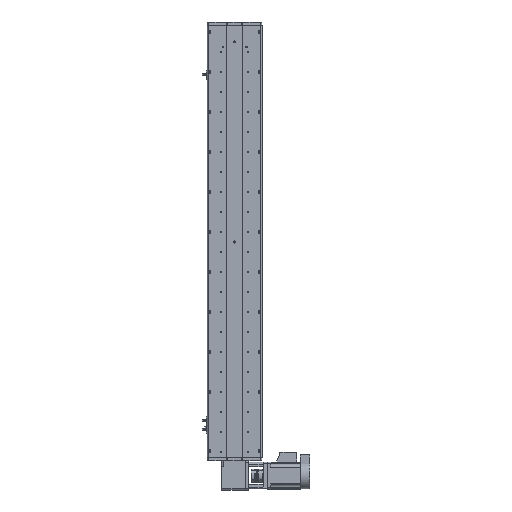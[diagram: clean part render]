
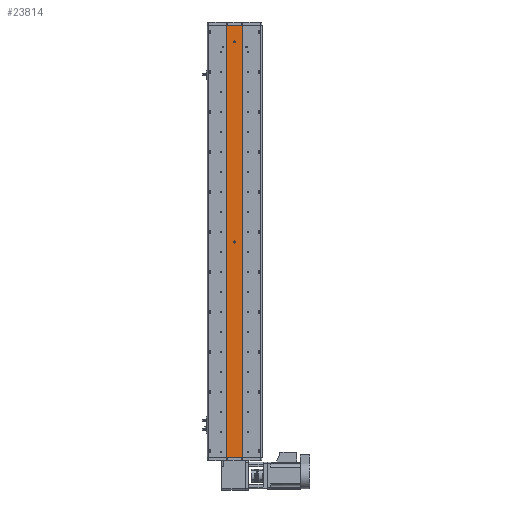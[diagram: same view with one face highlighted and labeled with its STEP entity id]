
A CAD part, front view. The second image highlights one B-rep face of the part: STEP entity #23814.
In plain terms, the highlighted planar face has unit normal (0, -1, 0).
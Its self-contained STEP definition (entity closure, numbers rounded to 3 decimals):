
#1544 = CARTESIAN_POINT ( 'NONE',  ( 0., 1., -1.5 ) ) ;
#1780 = CARTESIAN_POINT ( 'NONE',  ( 25., 1., 648.5 ) ) ;
#4440 = EDGE_LOOP ( 'NONE', ( #4460, #8074 ) ) ;
#4460 = ORIENTED_EDGE ( 'NONE', *, *, #12878, .F. ) ;
#5410 = DIRECTION ( 'NONE',  ( 0., 0., -1. ) ) ;
#5710 = VECTOR ( 'NONE', #9078, 1000. ) ;
#5819 = LINE ( 'NONE', #41310, #25114 ) ;
#6642 = AXIS2_PLACEMENT_3D ( 'NONE', #1544, #28504, #5410 ) ;
#7174 = VERTEX_POINT ( 'NONE', #49098 ) ;
#7587 = CARTESIAN_POINT ( 'NONE',  ( 25., 1., -648.5 ) ) ;
#8074 = ORIENTED_EDGE ( 'NONE', *, *, #24435, .F. ) ;
#8123 = ORIENTED_EDGE ( 'NONE', *, *, #10801, .F. ) ;
#8352 = LINE ( 'NONE', #32844, #46885 ) ;
#9018 = EDGE_LOOP ( 'NONE', ( #20781, #26809 ) ) ;
#9078 = DIRECTION ( 'NONE',  ( 1., 0., 0. ) ) ;
#9729 = PLANE ( 'NONE',  #45631 ) ;
#10801 = EDGE_CURVE ( 'NONE', #39990, #49538, #5819, .T. ) ;
#12670 = EDGE_CURVE ( 'NONE', #17230, #43362, #21278, .T. ) ;
#12878 = EDGE_CURVE ( 'NONE', #43347, #21437, #41079, .T. ) ;
#13502 = CARTESIAN_POINT ( 'NONE',  ( 0., 1., 598.5 ) ) ;
#13661 = DIRECTION ( 'NONE',  ( 0., 0., 1. ) ) ;
#13693 = CARTESIAN_POINT ( 'NONE',  ( 25., 1., 648.5 ) ) ;
#14384 = LINE ( 'NONE', #41663, #38407 ) ;
#14813 = CARTESIAN_POINT ( 'NONE',  ( -25., 1., -648.5 ) ) ;
#15960 = EDGE_CURVE ( 'NONE', #44135, #49538, #46642, .T. ) ;
#16575 = CARTESIAN_POINT ( 'NONE',  ( 0., 1., 598.5 ) ) ;
#17230 = VERTEX_POINT ( 'NONE', #18183 ) ;
#17379 = DIRECTION ( 'NONE',  ( 0., 0., -1. ) ) ;
#18183 = CARTESIAN_POINT ( 'NONE',  ( 0., 1., 595.5 ) ) ;
#18679 = CARTESIAN_POINT ( 'NONE',  ( 0., 1., -1.5 ) ) ;
#18808 = EDGE_LOOP ( 'NONE', ( #22608, #8123, #42455, #25656 ) ) ;
#20156 = FACE_BOUND ( 'NONE', #9018, .T. ) ;
#20385 = DIRECTION ( 'NONE',  ( 0., 0., -1. ) ) ;
#20721 = CARTESIAN_POINT ( 'NONE',  ( 0., 1., 601.5 ) ) ;
#20781 = ORIENTED_EDGE ( 'NONE', *, *, #12670, .F. ) ;
#21278 = CIRCLE ( 'NONE', #22593, 3. ) ;
#21437 = VERTEX_POINT ( 'NONE', #42716 ) ;
#22171 = DIRECTION ( 'NONE',  ( 0., 0., -1. ) ) ;
#22517 = DIRECTION ( 'NONE',  ( 0., 0., -1. ) ) ;
#22519 = DIRECTION ( 'NONE',  ( 0., 0., -1. ) ) ;
#22593 = AXIS2_PLACEMENT_3D ( 'NONE', #13502, #40316, #17379 ) ;
#22608 = ORIENTED_EDGE ( 'NONE', *, *, #15960, .T. ) ;
#22997 = AXIS2_PLACEMENT_3D ( 'NONE', #16575, #43378, #20385 ) ;
#23814 = ADVANCED_FACE ( 'NONE', ( #29170, #20156, #39378 ), #9729, .F. ) ;
#24435 = EDGE_CURVE ( 'NONE', #21437, #43347, #41111, .T. ) ;
#25114 = VECTOR ( 'NONE', #22171, 1000. ) ;
#25656 = ORIENTED_EDGE ( 'NONE', *, *, #33615, .T. ) ;
#26809 = ORIENTED_EDGE ( 'NONE', *, *, #43296, .F. ) ;
#28504 = DIRECTION ( 'NONE',  ( 0., -1., 0. ) ) ;
#29170 = FACE_BOUND ( 'NONE', #4440, .T. ) ;
#29361 = AXIS2_PLACEMENT_3D ( 'NONE', #18679, #45511, #22519 ) ;
#32844 = CARTESIAN_POINT ( 'NONE',  ( 25., 1., 648.5 ) ) ;
#33615 = EDGE_CURVE ( 'NONE', #7174, #44135, #14384, .T. ) ;
#36639 = DIRECTION ( 'NONE',  ( 0., 1., 0. ) ) ;
#38407 = VECTOR ( 'NONE', #22517, 1000. ) ;
#39378 = FACE_OUTER_BOUND ( 'NONE', #18808, .T. ) ;
#39862 = CARTESIAN_POINT ( 'NONE',  ( 25., 1., -648.5 ) ) ;
#39990 = VERTEX_POINT ( 'NONE', #13693 ) ;
#40316 = DIRECTION ( 'NONE',  ( 0., -1., 0. ) ) ;
#40541 = DIRECTION ( 'NONE',  ( 1., 0., 0. ) ) ;
#41079 = CIRCLE ( 'NONE', #29361, 3. ) ;
#41111 = CIRCLE ( 'NONE', #6642, 3. ) ;
#41147 = EDGE_CURVE ( 'NONE', #7174, #39990, #8352, .T. ) ;
#41310 = CARTESIAN_POINT ( 'NONE',  ( 25., 1., 648.5 ) ) ;
#41663 = CARTESIAN_POINT ( 'NONE',  ( -25., 1., 648.5 ) ) ;
#42455 = ORIENTED_EDGE ( 'NONE', *, *, #41147, .F. ) ;
#42716 = CARTESIAN_POINT ( 'NONE',  ( 0., 1., 1.5 ) ) ;
#43296 = EDGE_CURVE ( 'NONE', #43362, #17230, #46007, .T. ) ;
#43347 = VERTEX_POINT ( 'NONE', #47589 ) ;
#43362 = VERTEX_POINT ( 'NONE', #20721 ) ;
#43378 = DIRECTION ( 'NONE',  ( 0., -1., 0. ) ) ;
#44135 = VERTEX_POINT ( 'NONE', #14813 ) ;
#45511 = DIRECTION ( 'NONE',  ( 0., -1., 0. ) ) ;
#45631 = AXIS2_PLACEMENT_3D ( 'NONE', #1780, #36639, #13661 ) ;
#46007 = CIRCLE ( 'NONE', #22997, 3. ) ;
#46642 = LINE ( 'NONE', #39862, #5710 ) ;
#46885 = VECTOR ( 'NONE', #40541, 1000. ) ;
#47589 = CARTESIAN_POINT ( 'NONE',  ( 0., 1., -4.5 ) ) ;
#49098 = CARTESIAN_POINT ( 'NONE',  ( -25., 1., 648.5 ) ) ;
#49538 = VERTEX_POINT ( 'NONE', #7587 ) ;
